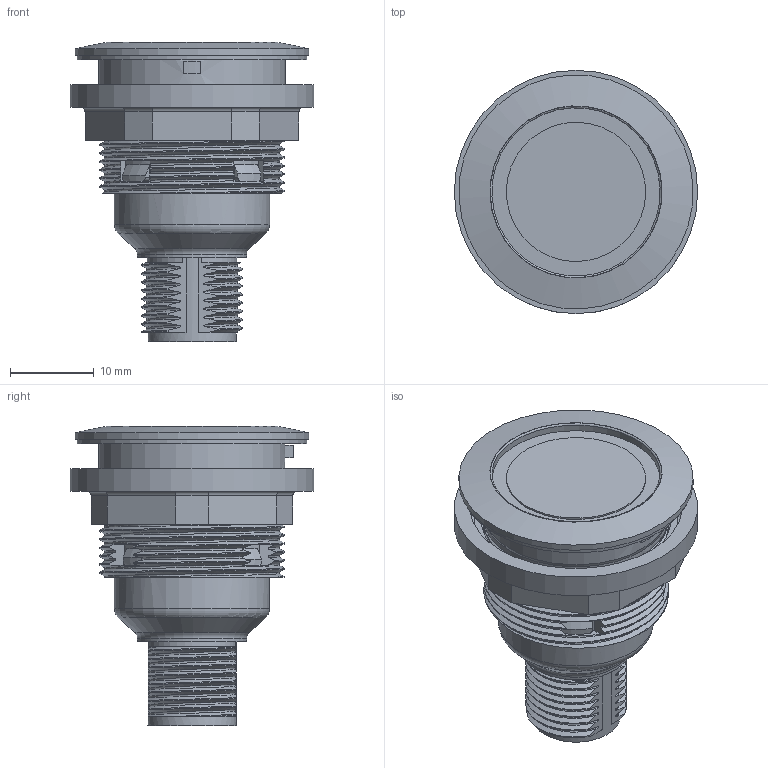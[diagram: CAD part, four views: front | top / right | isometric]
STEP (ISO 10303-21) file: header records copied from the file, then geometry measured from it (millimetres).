
FILE_DESCRIPTION(/* description */ (''),/* implementation_level */ '2;1');
FILE_NAME(/* name */ 'SVATOI_C008_vereinfacht.stp',/* time_stamp */ '2024-07-02T09:13:18+02:00',/* author */ ('Sz'),/* organization */ (''),/* preprocessor_version */ 'ST-DEVELOPER v19.2',/* originating_system */ 'Autodesk Inventor 2023',/* authorisation */ '');
FILE_SCHEMA (('AUTOMOTIVE_DESIGN { 1 0 10303 214 3 1 1 }'));
Length unit declared in the file: centimetre
Products named in the file (1): Bauteil6566
Bounding box: 29 x 29 x 35.65 mm (x, y, z)
Volume: 9843.6 mm3; surface area: 5732.3 mm2
Topology: 1 solids, 1 shells, 313 faces, 889 edges, 579 vertices
Faces by surface type: cylinder 111, plane 93, bspline 86, torus 10, cone 9, sphere 4
Full cylindrical faces by diameter (mm): 1 x4, 8.3 x1, 10.5 x1, 13 x1, 16.6 x1, 18.5 x1, 20.05 x1, 20.917 x2, 22 x4, 22.2 x1, 22.6 x1, 25.35 x1, 27.3 x1, 27.4 x1, 27.9 x1, 29 x1
Entity records: 24591 total; most frequent: CARTESIAN_POINT 16838, ORIENTED_EDGE 1770, DIRECTION 1167, EDGE_CURVE 885, VERTEX_POINT 579, AXIS2_PLACEMENT_3D 421, B_SPLINE_CURVE_WITH_KNOTS 355, EDGE_LOOP 336
